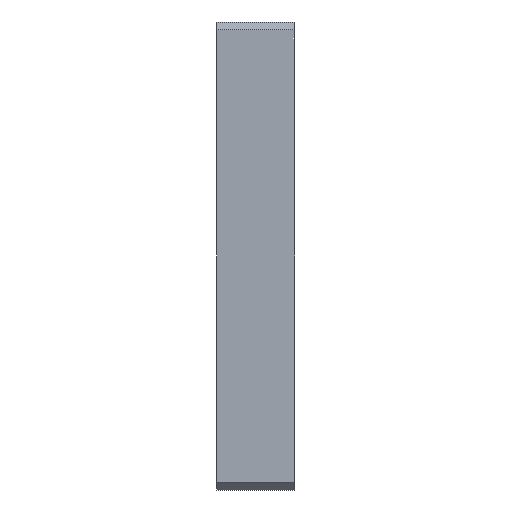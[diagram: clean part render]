
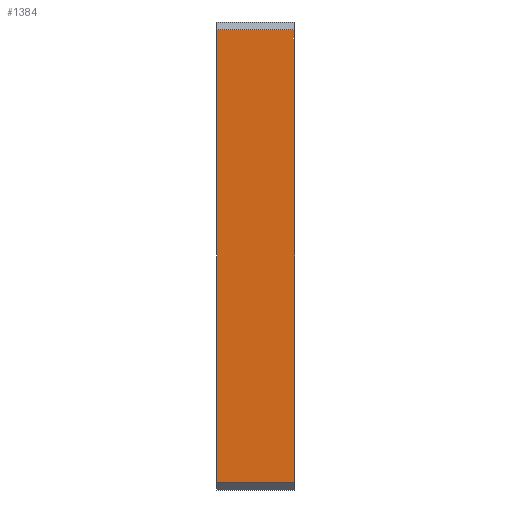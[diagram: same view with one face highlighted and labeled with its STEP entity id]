
A CAD part, left-side view. The second image highlights one B-rep face of the part: STEP entity #1384.
In plain terms, the highlighted planar face has unit normal (-1, 0, 0).
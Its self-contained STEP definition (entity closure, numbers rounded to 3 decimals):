
#30 = CARTESIAN_POINT ( 'NONE',  ( -30., -30., 10. ) ) ;
#44 = EDGE_CURVE ( 'NONE', #436, #648, #1261, .T. ) ;
#90 = ORIENTED_EDGE ( 'NONE', *, *, #309, .T. ) ;
#199 = VECTOR ( 'NONE', #763, 1000. ) ;
#236 = VECTOR ( 'NONE', #498, 1000. ) ;
#272 = CARTESIAN_POINT ( 'NONE',  ( -30., 29., 0. ) ) ;
#291 = ORIENTED_EDGE ( 'NONE', *, *, #44, .T. ) ;
#299 = DIRECTION ( 'NONE',  ( 0., 0., -1. ) ) ;
#304 = CARTESIAN_POINT ( 'NONE',  ( -30., -29., 0. ) ) ;
#309 = EDGE_CURVE ( 'NONE', #1063, #584, #968, .T. ) ;
#366 = LINE ( 'NONE', #1318, #1203 ) ;
#394 = CARTESIAN_POINT ( 'NONE',  ( -30., -29., 10. ) ) ;
#427 = CARTESIAN_POINT ( 'NONE',  ( -30., 29., 10. ) ) ;
#436 = VERTEX_POINT ( 'NONE', #427 ) ;
#465 = EDGE_CURVE ( 'NONE', #648, #1063, #366, .T. ) ;
#498 = DIRECTION ( 'NONE',  ( 0., 0., 1. ) ) ;
#575 = PLANE ( 'NONE',  #995 ) ;
#584 = VERTEX_POINT ( 'NONE', #1032 ) ;
#587 = DIRECTION ( 'NONE',  ( 0., 1., 0. ) ) ;
#607 = FACE_OUTER_BOUND ( 'NONE', #883, .T. ) ;
#648 = VERTEX_POINT ( 'NONE', #272 ) ;
#763 = DIRECTION ( 'NONE',  ( 0., -1., 0. ) ) ;
#788 = VECTOR ( 'NONE', #299, 1000. ) ;
#860 = DIRECTION ( 'NONE',  ( 0., -1., 0. ) ) ;
#883 = EDGE_LOOP ( 'NONE', ( #1157, #90, #1312, #291 ) ) ;
#933 = CARTESIAN_POINT ( 'NONE',  ( -30., 29., 10. ) ) ;
#968 = LINE ( 'NONE', #394, #236 ) ;
#975 = EDGE_CURVE ( 'NONE', #436, #584, #1147, .T. ) ;
#995 = AXIS2_PLACEMENT_3D ( 'NONE', #1337, #1248, #587 ) ;
#1032 = CARTESIAN_POINT ( 'NONE',  ( -30., -29., 10. ) ) ;
#1063 = VERTEX_POINT ( 'NONE', #304 ) ;
#1147 = LINE ( 'NONE', #30, #199 ) ;
#1157 = ORIENTED_EDGE ( 'NONE', *, *, #465, .T. ) ;
#1203 = VECTOR ( 'NONE', #860, 1000. ) ;
#1248 = DIRECTION ( 'NONE',  ( 1., 0., 0. ) ) ;
#1261 = LINE ( 'NONE', #933, #788 ) ;
#1312 = ORIENTED_EDGE ( 'NONE', *, *, #975, .F. ) ;
#1318 = CARTESIAN_POINT ( 'NONE',  ( -30., -30., 0. ) ) ;
#1337 = CARTESIAN_POINT ( 'NONE',  ( -30., -30., 10. ) ) ;
#1384 = ADVANCED_FACE ( 'NONE', ( #607 ), #575, .F. ) ;
